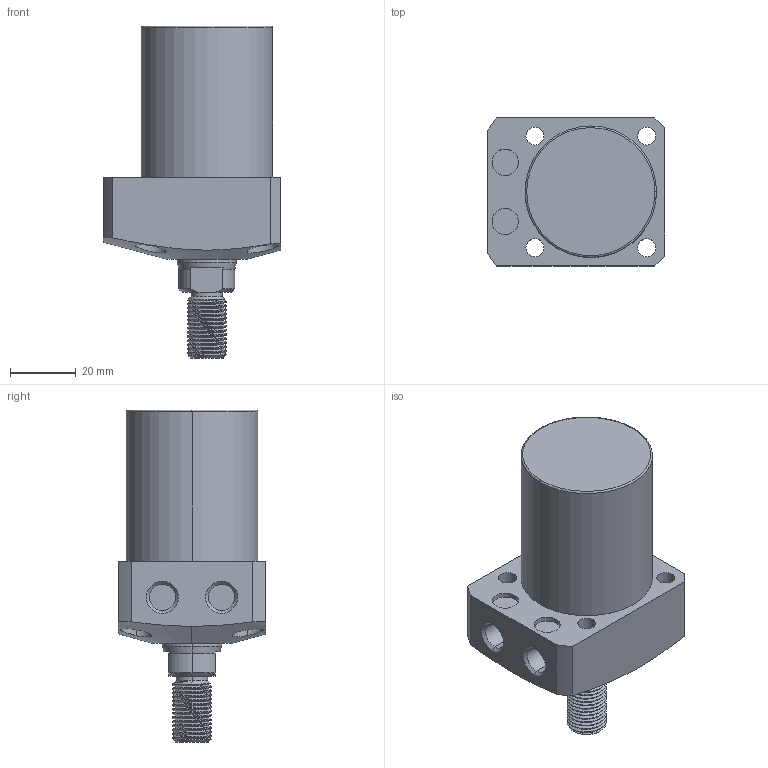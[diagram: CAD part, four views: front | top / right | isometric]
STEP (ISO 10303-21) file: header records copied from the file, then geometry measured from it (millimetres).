
FILE_DESCRIPTION (( 'STEP AP203' ), '1' );
FILE_NAME ('CLL-040CT-035.STEP', '2020-01-08T08:59:57', ( '' ), ( '' ), 'SwSTEP 2.0', 'SolidWorks 2015', '' );
FILE_SCHEMA (( 'CONFIG_CONTROL_DESIGN' ));
Length unit declared in the file: millimetre
Products named in the file (1): CLL-040CT-035
Bounding box: 54 x 45 x 101 mm (x, y, z)
Volume: 112165.5 mm3; surface area: 18600.6 mm2
Topology: 1 solids, 1 shells, 106 faces, 267 edges, 174 vertices
Faces by surface type: cylinder 63, plane 23, cone 16, torus 2, bspline 2
Entity records: 5232 total; most frequent: CARTESIAN_POINT 2750, ORIENTED_EDGE 534, DIRECTION 472, EDGE_CURVE 267, AXIS2_PLACEMENT_3D 189, VERTEX_POINT 174, EDGE_LOOP 125, ADVANCED_FACE 106
